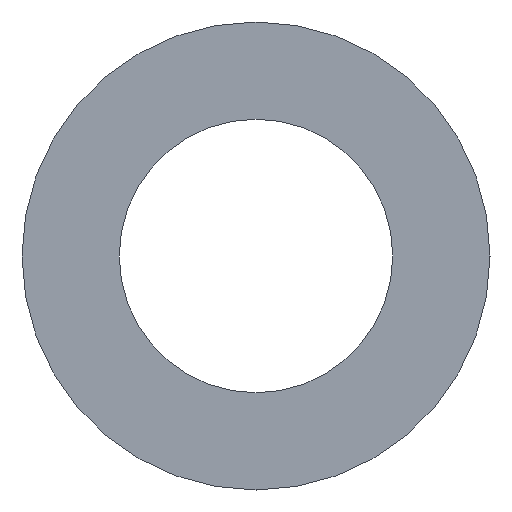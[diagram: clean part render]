
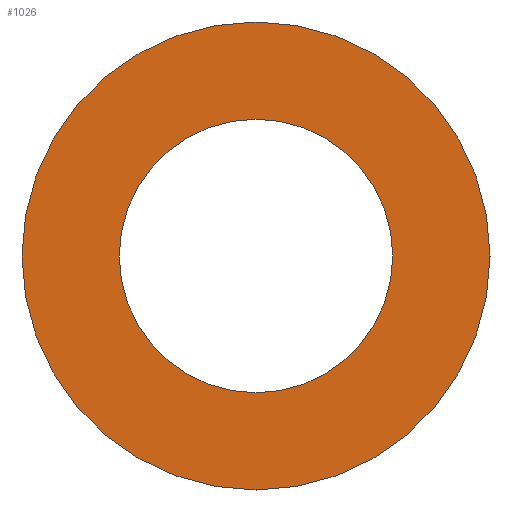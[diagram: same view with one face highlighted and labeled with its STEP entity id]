
A CAD part, front view. The second image highlights one B-rep face of the part: STEP entity #1026.
In plain terms, the highlighted planar face has unit normal (0, -1, 0).
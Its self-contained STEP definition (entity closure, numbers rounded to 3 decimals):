
#145 = CARTESIAN_POINT ( 'NONE',  ( 0., -15.5, -19. ) ) ;
#169 = DIRECTION ( 'NONE',  ( 0., -1., 0. ) ) ;
#238 = VERTEX_POINT ( 'NONE', #2585 ) ;
#254 = DIRECTION ( 'NONE',  ( 0., 0., -1. ) ) ;
#255 = DIRECTION ( 'NONE',  ( 0., -1., 0. ) ) ;
#517 = CARTESIAN_POINT ( 'NONE',  ( 0., -15.5, 19. ) ) ;
#519 = AXIS2_PLACEMENT_3D ( 'NONE', #1956, #2558, #2206 ) ;
#565 = CARTESIAN_POINT ( 'NONE',  ( 0., -15.5, 19. ) ) ;
#591 = PLANE ( 'NONE',  #1422 ) ;
#604 = CARTESIAN_POINT ( 'NONE',  ( 0., -15.5, -32.5 ) ) ;
#665 = CIRCLE ( 'NONE', #519, 19. ) ;
#689 = ORIENTED_EDGE ( 'NONE', *, *, #961, .F. ) ;
#805 = ORIENTED_EDGE ( 'NONE', *, *, #3205, .T. ) ;
#814 = EDGE_LOOP ( 'NONE', ( #805, #2036 ) ) ;
#961 = EDGE_CURVE ( 'NONE', #1353, #2275, #2160, .T. ) ;
#993 = CARTESIAN_POINT ( 'NONE',  ( 0., -15.5, 0. ) ) ;
#1026 = ADVANCED_FACE ( 'NONE', ( #1702, #2573 ), #591, .F. ) ;
#1124 = DIRECTION ( 'NONE',  ( 0., 0., 1. ) ) ;
#1278 = CIRCLE ( 'NONE', #1600, 32.5 ) ;
#1353 = VERTEX_POINT ( 'NONE', #145 ) ;
#1372 = DIRECTION ( 'NONE',  ( 0., -1., 0. ) ) ;
#1377 = AXIS2_PLACEMENT_3D ( 'NONE', #1935, #255, #2235 ) ;
#1399 = CARTESIAN_POINT ( 'NONE',  ( 0., -15.5, 0. ) ) ;
#1422 = AXIS2_PLACEMENT_3D ( 'NONE', #565, #2580, #1124 ) ;
#1600 = AXIS2_PLACEMENT_3D ( 'NONE', #993, #169, #2137 ) ;
#1702 = FACE_BOUND ( 'NONE', #2955, .T. ) ;
#1935 = CARTESIAN_POINT ( 'NONE',  ( 0., -15.5, 0. ) ) ;
#1956 = CARTESIAN_POINT ( 'NONE',  ( 0., -15.5, 0. ) ) ;
#2036 = ORIENTED_EDGE ( 'NONE', *, *, #3666, .T. ) ;
#2137 = DIRECTION ( 'NONE',  ( 0., 0., -1. ) ) ;
#2147 = AXIS2_PLACEMENT_3D ( 'NONE', #1399, #1372, #254 ) ;
#2160 = CIRCLE ( 'NONE', #1377, 19. ) ;
#2166 = CIRCLE ( 'NONE', #2147, 32.5 ) ;
#2206 = DIRECTION ( 'NONE',  ( 0., 0., -1. ) ) ;
#2235 = DIRECTION ( 'NONE',  ( 0., 0., -1. ) ) ;
#2275 = VERTEX_POINT ( 'NONE', #517 ) ;
#2422 = EDGE_CURVE ( 'NONE', #2275, #1353, #665, .T. ) ;
#2558 = DIRECTION ( 'NONE',  ( 0., -1., 0. ) ) ;
#2573 = FACE_OUTER_BOUND ( 'NONE', #814, .T. ) ;
#2580 = DIRECTION ( 'NONE',  ( 0., 1., 0. ) ) ;
#2585 = CARTESIAN_POINT ( 'NONE',  ( 0., -15.5, 32.5 ) ) ;
#2955 = EDGE_LOOP ( 'NONE', ( #689, #3660 ) ) ;
#3104 = VERTEX_POINT ( 'NONE', #604 ) ;
#3205 = EDGE_CURVE ( 'NONE', #3104, #238, #1278, .T. ) ;
#3660 = ORIENTED_EDGE ( 'NONE', *, *, #2422, .F. ) ;
#3666 = EDGE_CURVE ( 'NONE', #238, #3104, #2166, .T. ) ;
